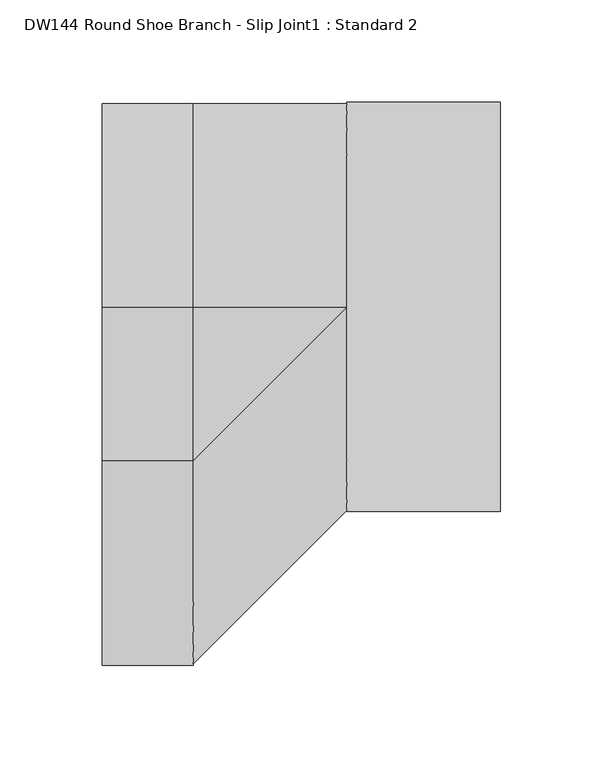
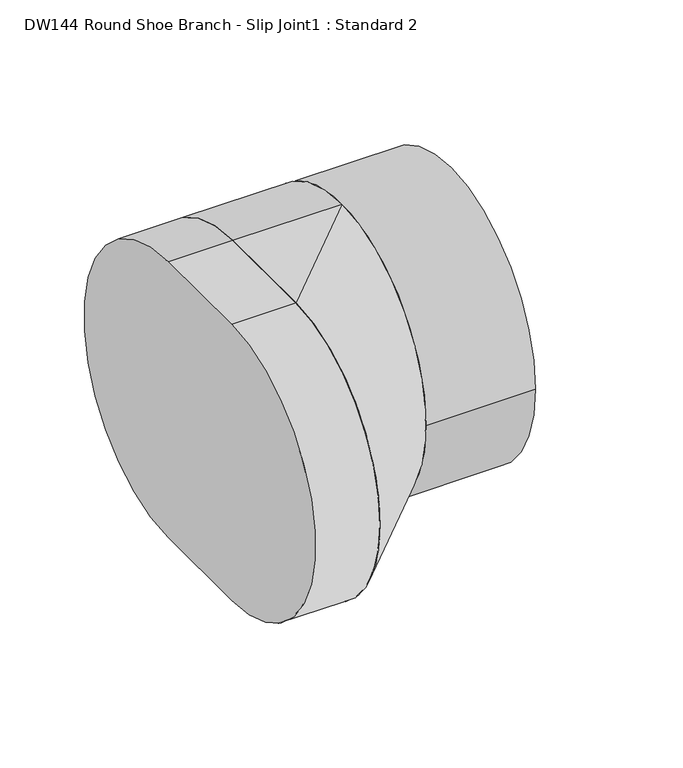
"""IFC4 building model written with IfcOpenShell, lengths in millimetres: duct fitting geometry, DW144 Round Shoe Branch - Slip Joint1 : Standard 2."""

from ifc_helpers import new_model, si_unit, point, frame, frame_2d, origin, origin_2d, place, context, project, spatial, polyline, circle_curve, trimmed, segment, composite_curve, outline, extrude, source, transform, mapped, element, save
from ifc_brep_helpers import plane_surface, cylinder_surface, extruded_surface, advanced_brep


def dw144_round_shoe_branch_slip_joint1_standard_2_3a899113(model_context):
    return source(origin(), model_context, "Body", "SolidModel", [
        extrude(outline(composite_curve([segment(trimmed(circle_curve(origin_2d(), 100.0), [point((-100.0, 0.0))], [point((100.0, 0.0))], False, "CARTESIAN"), True, "CONTINUOUS"), segment(trimmed(circle_curve(origin_2d(), 100.0), [point((100.0, 0.0))], [point((-100.0, 0.0))], False, "CARTESIAN"), True, "CONTINUOUS")], self_intersect=False)), frame((75.0, 0.0, 0.0), z_axis=(1.0, 0.0, 0.0), x_axis=(0.0, 1.0, 0.0)), (0.0, 0.0, 1.0), 75.0),
        advanced_brep(
        [(75.0, 0.0, -100.0), (75.0, 0.0, 100.0), (0.0, 0.0, -100.0), (0.0, -75.0, -100.0), (0.0, -75.0, 100.0), (0.0, 0.0, 100.0)],
        [
            (0, 1, circle_curve(frame((75.0, 0.0, 0.0), z_axis=(1.0, 0.0, 0.0), x_axis=(0.0, 1.0, 0.0)), 100.0)),
            (1, 0, circle_curve(frame((75.0, 0.0, 0.0), z_axis=(1.0, 0.0, 0.0), x_axis=(0.0, 1.0, 0.0)), 100.0)),
            (2, 3),
            (3, 4, circle_curve(frame((0.0, -75.0, 0.0), z_axis=(-1.0, 0.0, 0.0), x_axis=(0.0, 1.0, 0.0)), 100.0)),
            (4, 5),
            (5, 2, circle_curve(frame((0.0, 0.0, 0.0), z_axis=(-1.0, 0.0, 0.0), x_axis=(0.0, 1.0, 0.0)), 100.0)),
            (5, 1),
            (0, 2),
            (4, 1),
            (3, 0),
        ],
        [
            plane_surface(frame((75.0, 0.0, 0.0), z_axis=(1.0, 0.0, 0.0), x_axis=(0.0, 1.0, 0.0))),
            plane_surface(frame((0.0, -37.5, 0.0), z_axis=(-1.0, 0.0, 0.0), x_axis=(0.0, 1.0, 0.0))),
            cylinder_surface(frame((0.0, 0.0, 0.0), z_axis=(1.0, 0.0, 0.0), x_axis=(0.0, 1.0, 0.0)), 100.0),
            plane_surface(frame((0.0, -37.5, 100.0), z_axis=(0.0, 0.0, 1.0), x_axis=(0.0, -1.0, 0.0))),
            extruded_surface(trimmed(circle_curve(frame((0.0, -75.0, 0.0), z_axis=(1.0, 0.0, 0.0), x_axis=(0.0, 1.0, 0.0)), 100.0), [point((0.0, -75.0, 100.0))], [point((0.0, -75.0, -100.0))], True, "CARTESIAN"), (75.0, 75.0, 0.0), 106.06601717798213),
            plane_surface(frame((0.0, -37.5, -100.0), z_axis=(0.0, 0.0, -1.0), x_axis=(0.0, 1.0, 0.0))),
        ],
        [
            (0, [[1, 2]]),
            (1, [[3, 4, 5, 6]]),
            (2, [[-6, 7, -1, 8]]),
            (3, [[-5, 9, -7]]),
            (4, [[-4, 10, -2, -9]]),
            (5, [[-3, -8, -10]]),
        ],
    ),
        extrude(outline(composite_curve([segment(polyline([(0.0, -100.0), (-75.0, -100.0)]), True, "CONTINUOUS"), segment(trimmed(circle_curve(frame_2d((-75.0, 0.0)), 100.0), [point((-75.0, -100.0))], [point((-75.0, 100.0))], False, "CARTESIAN"), True, "CONTINUOUS"), segment(polyline([(-75.0, 100.0), (0.0, 100.0)]), True, "CONTINUOUS"), segment(trimmed(circle_curve(origin_2d(), 100.0), [point((0.0, 100.0))], [point((0.0, -100.0))], False, "CARTESIAN"), True, "CONTINUOUS")], self_intersect=False)), frame((-44.2926011, 0.0, 0.0), z_axis=(1.0, 0.0, 0.0), x_axis=(0.0, 1.0, 0.0)), (0.0, 0.0, 1.0), 44.2926011),
    ])


if __name__ == "__main__":
    model = new_model("IFC4")
    model_context = context("Model", 3, world=origin())
    ifc_project = project(units=[si_unit("LENGTHUNIT", "METRE", prefix="MILLI")], contexts=[model_context])
    site = spatial("IfcSite", under=ifc_project)
    building = spatial("IfcBuilding", under=site)
    placement = place(None, origin())
    dw144_round_shoe_branch_slip_joint1_standard_2_shape = dw144_round_shoe_branch_slip_joint1_standard_2_3a899113(model_context)
    element("IfcDuctFitting", 1, ObjectType="DW144 Round Shoe Branch - Slip Joint1 : Standard 2", at=placement, inside=building, context=model_context, shape_type="MappedRepresentation", body=[
        mapped(dw144_round_shoe_branch_slip_joint1_standard_2_shape, transform((0.0, 0.0, 0.0), x_axis=(1.0, 0.0, 0.0), y_axis=(0.0, 1.0, 0.0), z_axis=(0.0, 0.0, 1.0))),
    ])
    save(model, "model.ifc")
